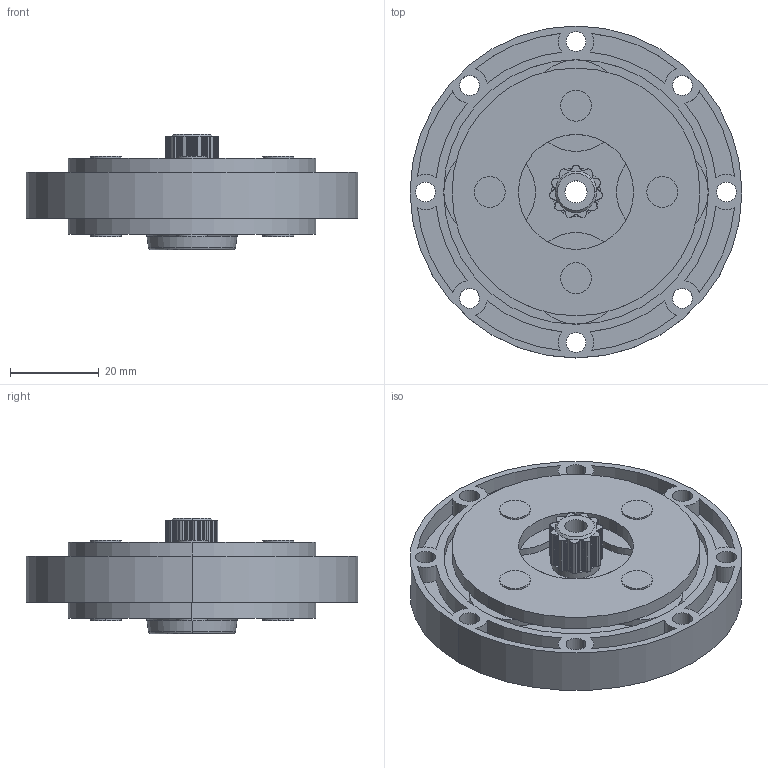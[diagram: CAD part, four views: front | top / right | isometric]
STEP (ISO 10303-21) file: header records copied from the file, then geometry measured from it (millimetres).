
FILE_DESCRIPTION (( 'STEP AP203' ), '1' );
FILE_NAME ('LGU75-4PLD.step', '2021-07-23T02:25:38', ( '' ), ( '' ), 'SwSTEP 2.0', 'SolidWorks 2021', '' );
FILE_SCHEMA (( 'CONFIG_CONTROL_DESIGN' ));
Length unit declared in the file: millimetre
Products named in the file (1): LGU75-4PLD
Bounding box: 75 x 75 x 26.15 mm (x, y, z)
Volume: 48999.9 mm3; surface area: 28078.9 mm2
Topology: 1 solids, 1 shells, 530 faces, 1435 edges, 948 vertices
Faces by surface type: cylinder 457, plane 65, cone 4, torus 4
Entity records: 17390 total; most frequent: DIRECTION 3471, CARTESIAN_POINT 2914, ORIENTED_EDGE 2870, AXIS2_PLACEMENT_3D 1505, EDGE_CURVE 1435, CIRCLE 974, VERTEX_POINT 948, EDGE_LOOP 605
